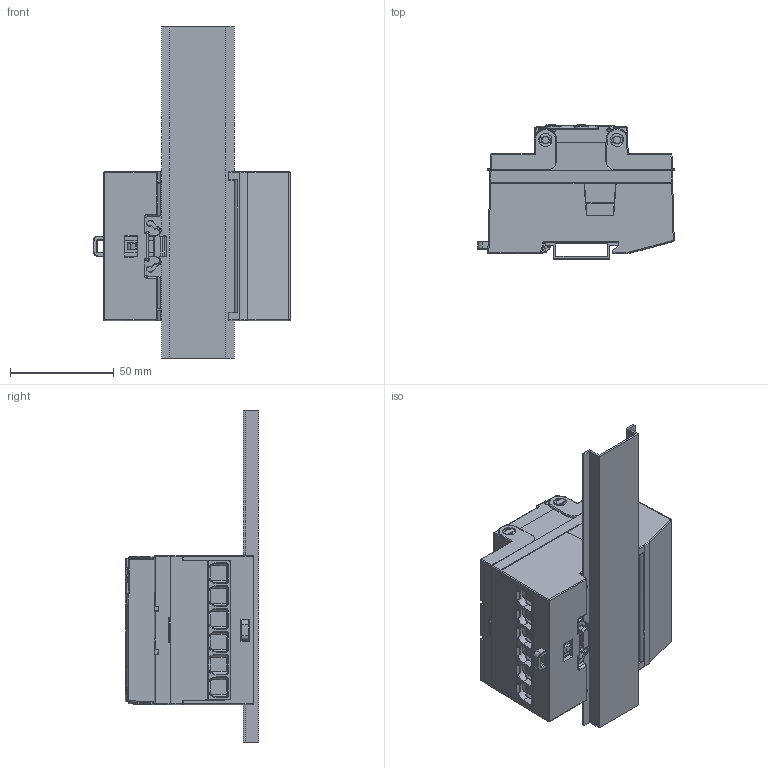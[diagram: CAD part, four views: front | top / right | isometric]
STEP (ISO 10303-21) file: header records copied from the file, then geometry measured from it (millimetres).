
FILE_DESCRIPTION (( 'STEP AP203' ), '1' );
FILE_NAME ('NZR-90001.STEP', '2023-10-17T07:45:19', ( '' ), ( '' ), 'SwSTEP 2.0', 'SolidWorks 2019', '' );
FILE_SCHEMA (( 'CONFIG_CONTROL_DESIGN' ));
Length unit declared in the file: millimetre
Products named in the file (1): NZR-90001
Bounding box: 94.89 x 64.5 x 160 mm (x, y, z)
Volume: 317982.1 mm3; surface area: 67455.8 mm2
Topology: 4 solids, 9 shells, 3062 faces, 8143 edges, 5196 vertices
Faces by surface type: plane 1349, bspline 1032, cylinder 505, torus 88, cone 74, sphere 14
Entity records: 123527 total; most frequent: CARTESIAN_POINT 58251, ORIENTED_EDGE 16252, DIRECTION 9079, EDGE_CURVE 8126, VERTEX_POINT 5194, VECTOR 3943, LINE 3943, B_SPLINE_CURVE_WITH_KNOTS 3402
